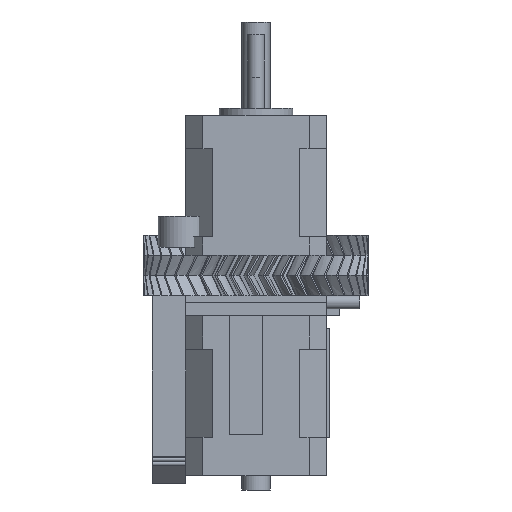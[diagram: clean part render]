
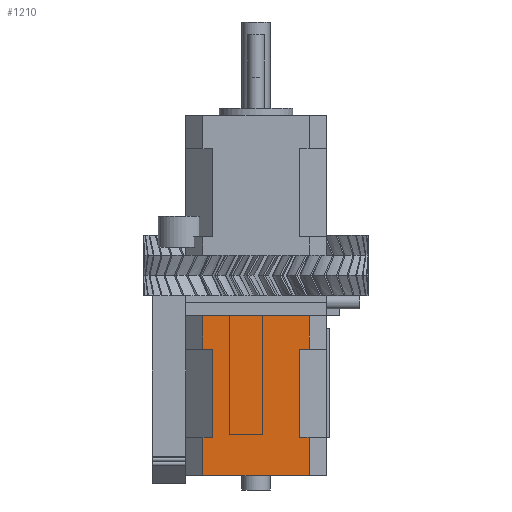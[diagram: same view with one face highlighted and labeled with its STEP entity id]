
A CAD part, front view. The second image highlights one B-rep face of the part: STEP entity #1210.
In plain terms, the highlighted planar face has unit normal (0, -1, 0).
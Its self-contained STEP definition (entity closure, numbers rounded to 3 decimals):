
#1210 = ADVANCED_FACE( '', ( #3308 ), #3309, .F. );
#3308 = FACE_OUTER_BOUND( '', #7442, .T. );
#3309 = PLANE( '', #7443 );
#7442 = EDGE_LOOP( '', ( #33328, #33329, #33330, #33331, #33332, #33333, #33334, #33335, #33336, #33337, #33338, #33339 ) );
#7443 = AXIS2_PLACEMENT_3D( '', #33340, #33341, #33342 );
#33328 = ORIENTED_EDGE( '', *, *, #40766, .F. );
#33329 = ORIENTED_EDGE( '', *, *, #40767, .F. );
#33330 = ORIENTED_EDGE( '', *, *, #40768, .T. );
#33331 = ORIENTED_EDGE( '', *, *, #40769, .T. );
#33332 = ORIENTED_EDGE( '', *, *, #40770, .T. );
#33333 = ORIENTED_EDGE( '', *, *, #40771, .F. );
#33334 = ORIENTED_EDGE( '', *, *, #40772, .T. );
#33335 = ORIENTED_EDGE( '', *, *, #40773, .T. );
#33336 = ORIENTED_EDGE( '', *, *, #40774, .F. );
#33337 = ORIENTED_EDGE( '', *, *, #40775, .F. );
#33338 = ORIENTED_EDGE( '', *, *, #40776, .F. );
#33339 = ORIENTED_EDGE( '', *, *, #40777, .T. );
#33340 = CARTESIAN_POINT( '', ( -21., -21., 47.8 ) );
#33341 = DIRECTION( '', ( 0., 1., 0. ) );
#33342 = DIRECTION( '', ( 0., 0., 1. ) );
#40766 = EDGE_CURVE( '', #44330, #44331, #44332, .T. );
#40767 = EDGE_CURVE( '', #44333, #44330, #44334, .T. );
#40768 = EDGE_CURVE( '', #44333, #44335, #44336, .T. );
#40769 = EDGE_CURVE( '', #44335, #44337, #44338, .T. );
#40770 = EDGE_CURVE( '', #44337, #44339, #44340, .T. );
#40771 = EDGE_CURVE( '', #44341, #44339, #44342, .T. );
#40772 = EDGE_CURVE( '', #44341, #44343, #44344, .T. );
#40773 = EDGE_CURVE( '', #44343, #44345, #44346, .T. );
#40774 = EDGE_CURVE( '', #44347, #44345, #44348, .T. );
#40775 = EDGE_CURVE( '', #44349, #44347, #44350, .T. );
#40776 = EDGE_CURVE( '', #44351, #44349, #44352, .T. );
#40777 = EDGE_CURVE( '', #44351, #44331, #44353, .T. );
#44330 = VERTEX_POINT( '', #50144 );
#44331 = VERTEX_POINT( '', #50145 );
#44332 = LINE( '', #50146, #50147 );
#44333 = VERTEX_POINT( '', #50148 );
#44334 = LINE( '', #50149, #50150 );
#44335 = VERTEX_POINT( '', #50151 );
#44336 = LINE( '', #50152, #50153 );
#44337 = VERTEX_POINT( '', #50154 );
#44338 = LINE( '', #50155, #50156 );
#44339 = VERTEX_POINT( '', #50157 );
#44340 = LINE( '', #50158, #50159 );
#44341 = VERTEX_POINT( '', #50160 );
#44342 = LINE( '', #50161, #50162 );
#44343 = VERTEX_POINT( '', #50163 );
#44344 = LINE( '', #50164, #50165 );
#44345 = VERTEX_POINT( '', #50166 );
#44346 = LINE( '', #50167, #50168 );
#44347 = VERTEX_POINT( '', #50169 );
#44348 = LINE( '', #50170, #50171 );
#44349 = VERTEX_POINT( '', #50172 );
#44350 = LINE( '', #50173, #50174 );
#44351 = VERTEX_POINT( '', #50175 );
#44352 = LINE( '', #50176, #50177 );
#44353 = LINE( '', #50178, #50179 );
#50144 = CARTESIAN_POINT( '', ( 15.828, -21., 11.5 ) );
#50145 = CARTESIAN_POINT( '', ( 15.828, -21., 0. ) );
#50146 = CARTESIAN_POINT( '', ( 15.828, -21., 47.8 ) );
#50147 = VECTOR( '', #67110, 1000. );
#50148 = CARTESIAN_POINT( '', ( 13., -21., 11.5 ) );
#50149 = CARTESIAN_POINT( '', ( -21., -21., 11.5 ) );
#50150 = VECTOR( '', #67111, 1000. );
#50151 = CARTESIAN_POINT( '', ( 13., -21., 37.8 ) );
#50152 = CARTESIAN_POINT( '', ( 13., -21., 11.5 ) );
#50153 = VECTOR( '', #67112, 1000. );
#50154 = CARTESIAN_POINT( '', ( 15.828, -21., 37.8 ) );
#50155 = CARTESIAN_POINT( '', ( -21., -21., 37.8 ) );
#50156 = VECTOR( '', #67113, 1000. );
#50157 = CARTESIAN_POINT( '', ( 15.828, -21., 47.8 ) );
#50158 = CARTESIAN_POINT( '', ( 15.828, -21., 47.8 ) );
#50159 = VECTOR( '', #67114, 1000. );
#50160 = CARTESIAN_POINT( '', ( -15.828, -21., 47.8 ) );
#50161 = CARTESIAN_POINT( '', ( -21., -21., 47.8 ) );
#50162 = VECTOR( '', #67115, 1000. );
#50163 = CARTESIAN_POINT( '', ( -15.828, -21., 37.8 ) );
#50164 = CARTESIAN_POINT( '', ( -15.828, -21., 47.8 ) );
#50165 = VECTOR( '', #67116, 1000. );
#50166 = CARTESIAN_POINT( '', ( -13., -21., 37.8 ) );
#50167 = CARTESIAN_POINT( '', ( -21., -21., 37.8 ) );
#50168 = VECTOR( '', #67117, 1000. );
#50169 = CARTESIAN_POINT( '', ( -13., -21., 11.5 ) );
#50170 = CARTESIAN_POINT( '', ( -13., -21., 11.5 ) );
#50171 = VECTOR( '', #67118, 1000. );
#50172 = CARTESIAN_POINT( '', ( -15.828, -21., 11.5 ) );
#50173 = CARTESIAN_POINT( '', ( -21., -21., 11.5 ) );
#50174 = VECTOR( '', #67119, 1000. );
#50175 = CARTESIAN_POINT( '', ( -15.828, -21., 0. ) );
#50176 = CARTESIAN_POINT( '', ( -15.828, -21., 47.8 ) );
#50177 = VECTOR( '', #67120, 1000. );
#50178 = CARTESIAN_POINT( '', ( -21., -21., 0. ) );
#50179 = VECTOR( '', #67121, 1000. );
#67110 = DIRECTION( '', ( 0., 0., -1. ) );
#67111 = DIRECTION( '', ( 1., 0., 0. ) );
#67112 = DIRECTION( '', ( 0., 0., 1. ) );
#67113 = DIRECTION( '', ( 1., 0., 0. ) );
#67114 = DIRECTION( '', ( 0., 0., 1. ) );
#67115 = DIRECTION( '', ( 1., 0., 0. ) );
#67116 = DIRECTION( '', ( 0., 0., -1. ) );
#67117 = DIRECTION( '', ( 1., 0., 0. ) );
#67118 = DIRECTION( '', ( 0., 0., 1. ) );
#67119 = DIRECTION( '', ( 1., 0., 0. ) );
#67120 = DIRECTION( '', ( 0., 0., 1. ) );
#67121 = DIRECTION( '', ( 1., 0., 0. ) );
